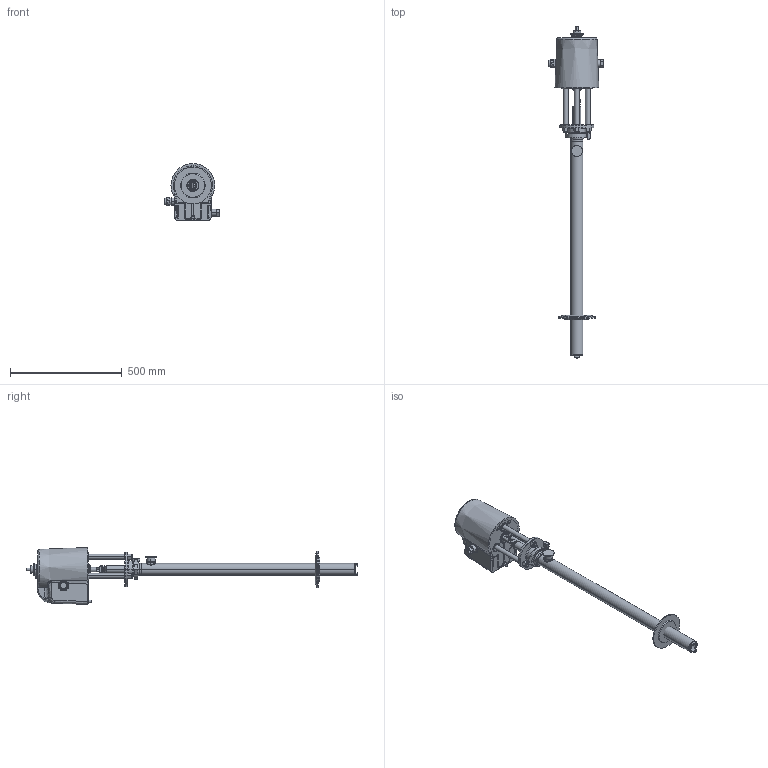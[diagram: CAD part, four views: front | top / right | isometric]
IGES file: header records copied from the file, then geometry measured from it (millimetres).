
Start section:  PTC IGES file: 24d660-en-v.igs
Global section: file name: 24d660-en-v.igs; native system: Creo Parametric by PTC Inc.; preprocessor: 2021072; author: qtmwp1; organization: Unknown; date: 20220214.112127; units: inch
Bounding box: 248.56 x 1484.12 x 254.14 mm (x, y, z)
Surface area: 684774.3 mm2 (no closed solid volume)
Topology: 0 solids, 0 shells, 668 faces, 3421 edges, 3417 vertices
Faces by surface type: revolution 523, bspline 145
